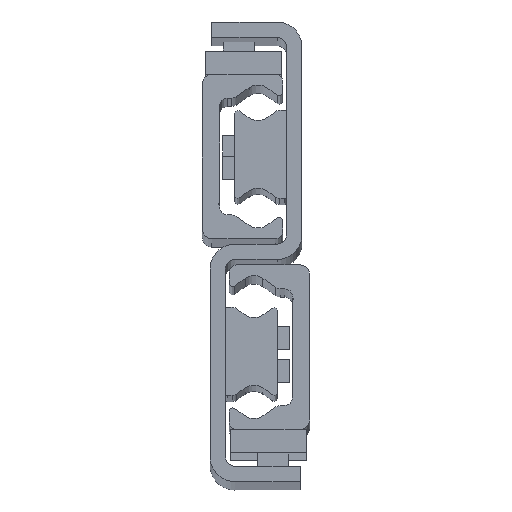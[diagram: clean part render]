
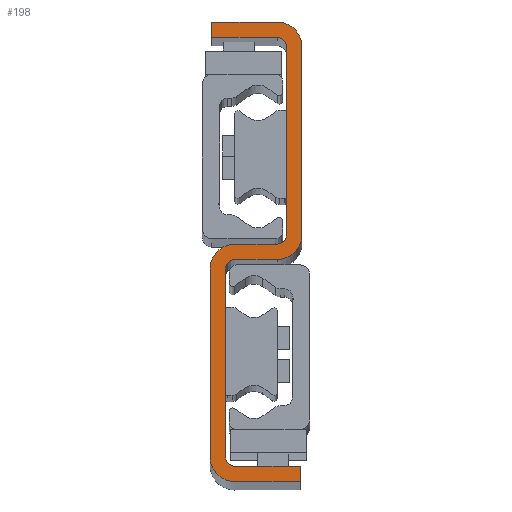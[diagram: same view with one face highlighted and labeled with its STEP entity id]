
A CAD part, top view. The second image highlights one B-rep face of the part: STEP entity #198.
In plain terms, the highlighted planar face has unit normal (0, 0, 1).
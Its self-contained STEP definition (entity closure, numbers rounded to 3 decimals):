
#198=ADVANCED_FACE('',(#673),#674,.T.);
#673=FACE_OUTER_BOUND('',#1431,.T.);
#674=PLANE('',#1432);
#1431=EDGE_LOOP('',(#2861,#2862,#2863,#2864,#2865,#2866,#2867,#2868,#2869,#2870,#2871,#2872,#2873,#2874,#2875,#2876,#2877,#2878,#2879,#2880));
#1432=AXIS2_PLACEMENT_3D('',#2881,#2882,#2883);
#2861=ORIENTED_EDGE('',*,*,#4969,.F.);
#2862=ORIENTED_EDGE('',*,*,#5027,.F.);
#2863=ORIENTED_EDGE('',*,*,#5024,.F.);
#2864=ORIENTED_EDGE('',*,*,#5021,.F.);
#2865=ORIENTED_EDGE('',*,*,#5018,.F.);
#2866=ORIENTED_EDGE('',*,*,#5015,.F.);
#2867=ORIENTED_EDGE('',*,*,#5012,.F.);
#2868=ORIENTED_EDGE('',*,*,#5009,.F.);
#2869=ORIENTED_EDGE('',*,*,#5006,.F.);
#2870=ORIENTED_EDGE('',*,*,#5003,.F.);
#2871=ORIENTED_EDGE('',*,*,#5000,.F.);
#2872=ORIENTED_EDGE('',*,*,#4997,.F.);
#2873=ORIENTED_EDGE('',*,*,#4994,.F.);
#2874=ORIENTED_EDGE('',*,*,#4991,.F.);
#2875=ORIENTED_EDGE('',*,*,#4988,.F.);
#2876=ORIENTED_EDGE('',*,*,#4985,.F.);
#2877=ORIENTED_EDGE('',*,*,#4982,.F.);
#2878=ORIENTED_EDGE('',*,*,#4979,.F.);
#2879=ORIENTED_EDGE('',*,*,#4976,.F.);
#2880=ORIENTED_EDGE('',*,*,#4973,.F.);
#2881=CARTESIAN_POINT('',(-14.,26.,1888.0));
#2882=DIRECTION('',(0.0,0.0,1.0));
#2883=DIRECTION('',(1.0,0.0,0.0));
#4969=EDGE_CURVE('',#6027,#6028,#6029,.T.);
#4973=EDGE_CURVE('',#6028,#6035,#6036,.T.);
#4976=EDGE_CURVE('',#6035,#6040,#6041,.T.);
#4979=EDGE_CURVE('',#6040,#6045,#6046,.T.);
#4982=EDGE_CURVE('',#6045,#6050,#6051,.T.);
#4985=EDGE_CURVE('',#6050,#6055,#6056,.T.);
#4988=EDGE_CURVE('',#6055,#6060,#6061,.T.);
#4991=EDGE_CURVE('',#6060,#6065,#6066,.T.);
#4994=EDGE_CURVE('',#6065,#6070,#6071,.T.);
#4997=EDGE_CURVE('',#6070,#6075,#6076,.T.);
#5000=EDGE_CURVE('',#6075,#6080,#6081,.T.);
#5003=EDGE_CURVE('',#6080,#6085,#6086,.T.);
#5006=EDGE_CURVE('',#6085,#6090,#6091,.T.);
#5009=EDGE_CURVE('',#6090,#6095,#6096,.T.);
#5012=EDGE_CURVE('',#6095,#6100,#6101,.T.);
#5015=EDGE_CURVE('',#6100,#6105,#6106,.T.);
#5018=EDGE_CURVE('',#6105,#6110,#6111,.T.);
#5021=EDGE_CURVE('',#6110,#6115,#6116,.T.);
#5024=EDGE_CURVE('',#6115,#6120,#6121,.T.);
#5027=EDGE_CURVE('',#6120,#6027,#6125,.T.);
#6027=VERTEX_POINT('',#7677);
#6028=VERTEX_POINT('',#7678);
#6029=LINE('',#7679,#7680);
#6035=VERTEX_POINT('',#7689);
#6036=CIRCLE('',#7690,2.5);
#6040=VERTEX_POINT('',#7695);
#6041=LINE('',#7696,#7697);
#6045=VERTEX_POINT('',#7703);
#6046=CIRCLE('',#7704,2.5);
#6050=VERTEX_POINT('',#7709);
#6051=LINE('',#7710,#7711);
#6055=VERTEX_POINT('',#7717);
#6056=LINE('',#7718,#7719);
#6060=VERTEX_POINT('',#7725);
#6061=LINE('',#7726,#7727);
#6065=VERTEX_POINT('',#7733);
#6066=CIRCLE('',#7734,6.5);
#6070=VERTEX_POINT('',#7739);
#6071=LINE('',#7740,#7741);
#6075=VERTEX_POINT('',#7747);
#6076=CIRCLE('',#7748,6.5);
#6080=VERTEX_POINT('',#7753);
#6081=LINE('',#7754,#7755);
#6085=VERTEX_POINT('',#7761);
#6086=CIRCLE('',#7762,2.5);
#6090=VERTEX_POINT('',#7767);
#6091=LINE('',#7768,#7769);
#6095=VERTEX_POINT('',#7775);
#6096=CIRCLE('',#7776,2.5);
#6100=VERTEX_POINT('',#7781);
#6101=LINE('',#7782,#7783);
#6105=VERTEX_POINT('',#7789);
#6106=LINE('',#7790,#7791);
#6110=VERTEX_POINT('',#7797);
#6111=LINE('',#7798,#7799);
#6115=VERTEX_POINT('',#7805);
#6116=CIRCLE('',#7806,6.5);
#6120=VERTEX_POINT('',#7811);
#6121=LINE('',#7812,#7813);
#6125=CIRCLE('',#7819,6.5);
#7677=CARTESIAN_POINT('',(-8.5,24.,1888.0));
#7678=CARTESIAN_POINT('',(-19.5,24.,1888.0));
#7679=CARTESIAN_POINT('',(-8.5,24.,1888.0));
#7680=VECTOR('',#9457,1.0);
#7689=CARTESIAN_POINT('',(-22.,21.5,1888.0));
#7690=AXIS2_PLACEMENT_3D('',#9461,#9462,#9463);
#7695=CARTESIAN_POINT('',(-22.,-27.5,1888.0));
#7696=CARTESIAN_POINT('',(-22.,-27.5,1888.0));
#7697=VECTOR('',#9468,1.0);
#7703=CARTESIAN_POINT('',(-19.5,-30.,1888.0));
#7704=AXIS2_PLACEMENT_3D('',#9471,#9472,#9473);
#7709=CARTESIAN_POINT('',(-2.5,-30.,1888.0));
#7710=CARTESIAN_POINT('',(-19.5,-30.,1888.0));
#7711=VECTOR('',#9478,1.0);
#7717=CARTESIAN_POINT('',(-2.5,-34.,1888.0));
#7718=CARTESIAN_POINT('',(-2.5,-34.,1888.0));
#7719=VECTOR('',#9481,1.0);
#7725=CARTESIAN_POINT('',(-19.5,-34.,1888.0));
#7726=CARTESIAN_POINT('',(-19.5,-34.,1888.0));
#7727=VECTOR('',#9484,1.0);
#7733=CARTESIAN_POINT('',(-26.,-27.5,1888.0));
#7734=AXIS2_PLACEMENT_3D('',#9487,#9488,#9489);
#7739=CARTESIAN_POINT('',(-26.,21.5,1888.0));
#7740=CARTESIAN_POINT('',(-26.,21.5,1888.0));
#7741=VECTOR('',#9494,1.0);
#7747=CARTESIAN_POINT('',(-19.5,28.,1888.0));
#7748=AXIS2_PLACEMENT_3D('',#9497,#9498,#9499);
#7753=CARTESIAN_POINT('',(-8.5,28.,1888.0));
#7754=CARTESIAN_POINT('',(-8.5,28.,1888.0));
#7755=VECTOR('',#9504,1.0);
#7761=CARTESIAN_POINT('',(-6.,30.5,1888.0));
#7762=AXIS2_PLACEMENT_3D('',#9507,#9508,#9509);
#7767=CARTESIAN_POINT('',(-6.,79.5,1888.0));
#7768=CARTESIAN_POINT('',(-6.,79.5,1888.0));
#7769=VECTOR('',#9514,1.0);
#7775=CARTESIAN_POINT('',(-8.5,82.,1888.0));
#7776=AXIS2_PLACEMENT_3D('',#9517,#9518,#9519);
#7781=CARTESIAN_POINT('',(-25.5,82.,1888.0));
#7782=CARTESIAN_POINT('',(-25.5,82.,1888.0));
#7783=VECTOR('',#9524,1.0);
#7789=CARTESIAN_POINT('',(-25.5,86.,1888.0));
#7790=CARTESIAN_POINT('',(-25.5,86.,1888.0));
#7791=VECTOR('',#9527,1.0);
#7797=CARTESIAN_POINT('',(-8.5,86.,1888.0));
#7798=CARTESIAN_POINT('',(-25.5,86.,1888.0));
#7799=VECTOR('',#9530,1.0);
#7805=CARTESIAN_POINT('',(-2.,79.5,1888.0));
#7806=AXIS2_PLACEMENT_3D('',#9533,#9534,#9535);
#7811=CARTESIAN_POINT('',(-2.,30.5,1888.0));
#7812=CARTESIAN_POINT('',(-2.,79.5,1888.0));
#7813=VECTOR('',#9540,1.0);
#7819=AXIS2_PLACEMENT_3D('',#9543,#9544,#9545);
#9457=DIRECTION('',(-1.0,0.,0.0));
#9461=CARTESIAN_POINT('',(-19.5,21.5,1888.0));
#9462=DIRECTION('',(0.0,0.0,1.0));
#9463=DIRECTION('',(1.0,0.0,0.0));
#9468=DIRECTION('',(-0.0,-1.0,-0.0));
#9471=CARTESIAN_POINT('',(-19.5,-27.5,1888.0));
#9472=DIRECTION('',(0.0,0.0,1.0));
#9473=DIRECTION('',(1.0,0.0,0.0));
#9478=DIRECTION('',(1.,0.,0.0));
#9481=DIRECTION('',(-0.0,-1.0,-0.0));
#9484=DIRECTION('',(-1.,0.,-0.0));
#9487=CARTESIAN_POINT('',(-19.5,-27.5,1888.0));
#9488=DIRECTION('',(0.0,0.0,-1.0));
#9489=DIRECTION('',(1.0,0.0,0.0));
#9494=DIRECTION('',(0.0,1.0,0.0));
#9497=CARTESIAN_POINT('',(-19.5,21.5,1888.0));
#9498=DIRECTION('',(0.0,0.0,-1.0));
#9499=DIRECTION('',(1.0,0.0,0.0));
#9504=DIRECTION('',(1.0,0.,0.0));
#9507=CARTESIAN_POINT('',(-8.5,30.5,1888.0));
#9508=DIRECTION('',(0.0,0.0,1.0));
#9509=DIRECTION('',(1.0,0.0,0.0));
#9514=DIRECTION('',(0.0,1.0,0.0));
#9517=CARTESIAN_POINT('',(-8.5,79.5,1888.0));
#9518=DIRECTION('',(0.0,0.0,1.0));
#9519=DIRECTION('',(1.0,0.0,0.0));
#9524=DIRECTION('',(-1.,0.,0.0));
#9527=DIRECTION('',(0.0,1.0,0.0));
#9530=DIRECTION('',(1.,0.,0.0));
#9533=CARTESIAN_POINT('',(-8.5,79.5,1888.0));
#9534=DIRECTION('',(0.0,0.0,-1.0));
#9535=DIRECTION('',(1.0,0.0,0.0));
#9540=DIRECTION('',(0.,-1.0,0.0));
#9543=CARTESIAN_POINT('',(-8.5,30.5,1888.0));
#9544=DIRECTION('',(0.0,0.0,-1.0));
#9545=DIRECTION('',(1.0,0.0,0.0));
